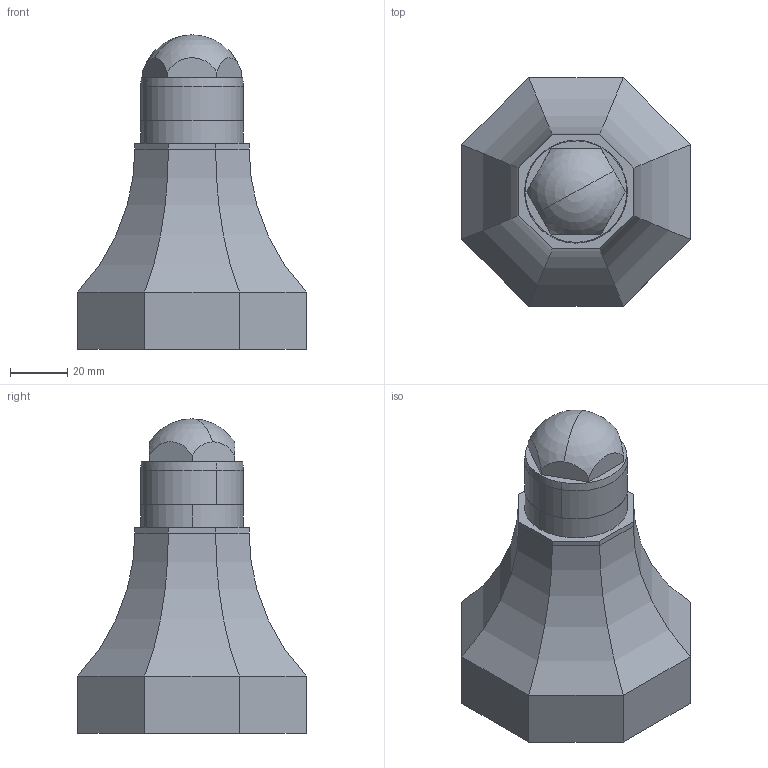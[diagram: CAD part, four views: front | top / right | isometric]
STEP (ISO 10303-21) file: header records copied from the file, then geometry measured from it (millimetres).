
FILE_DESCRIPTION(('CATIA V5 STEP Exchange'),'2;1');
FILE_NAME('F:\第九届全国数控技能大赛\2021年方案2\xueshenzu.stp','2021-04-25T12:07:03+00:00',('none'),('none'),'CATIA Version 5 Release 19 SP 9 (IN-10)','CATIA V5 STEP AP203','none');
FILE_SCHEMA(('CONFIG_CONTROL_DESIGN'));
Length unit declared in the file: millimetre
Products named in the file (1): Product1
Assembly tree (2 placements, depth 2):
  Product1
    #58
    #1147
Bounding box: 80 x 80 x 110 mm (x, y, z)
Volume: 161074.8 mm3; surface area: 37125 mm2
Topology: 2 solids, 2 shells, 60 faces, 132 edges, 79 vertices
Faces by surface type: plane 30, cylinder 20, cone 6, sphere 4
Entity records: 1728 total; most frequent: CARTESIAN_POINT 414, ORIENTED_EDGE 260, DIRECTION 222, EDGE_CURVE 130, AXIS2_PLACEMENT_3D 89, VERTEX_POINT 79, VECTOR 78, LINE 78
